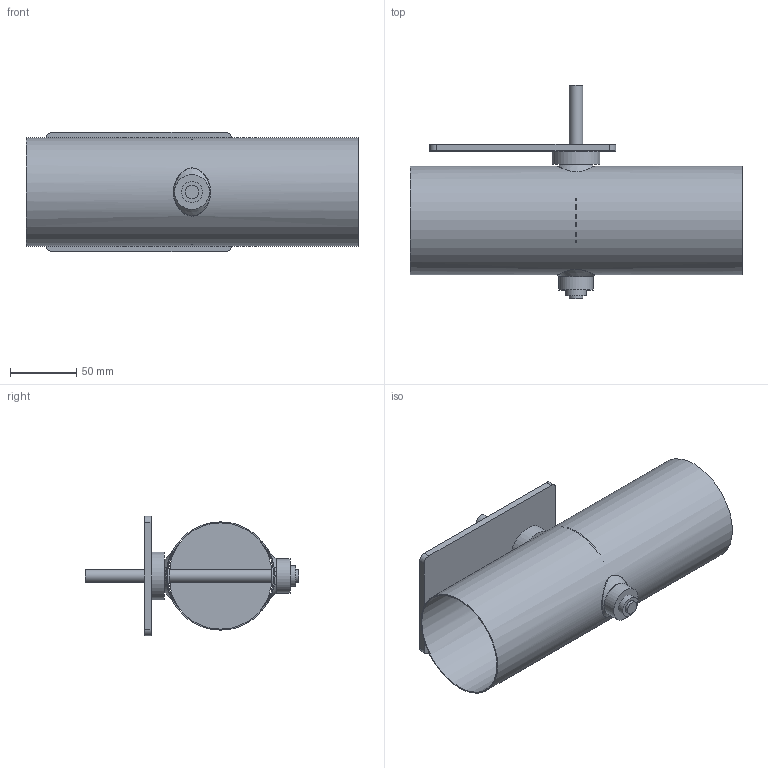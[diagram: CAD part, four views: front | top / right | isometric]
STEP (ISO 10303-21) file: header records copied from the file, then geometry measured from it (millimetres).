
FILE_DESCRIPTION(/* description */ (''),/* implementation_level */ '2;1');
FILE_NAME(/* name */ 'AA118-80B__80_L250_Belimo_Typ_NM.stp',/* time_stamp */ '2017-12-05T13:08:18+01:00',/* author */ (''),/* organization */ (''),/* preprocessor_version */ 'ST-DEVELOPER v11',/* originating_system */ 'SIEMENS UGS NX 6.0',/* authorisation */ '');
FILE_SCHEMA (('CONFIG_CONTROL_DESIGN'));
Length unit declared in the file: millimetre
Products named in the file (1): gars1E3Bhifo
Bounding box: 250 x 161 x 90 mm (x, y, z)
Volume: 147985 mm3; surface area: 179514.2 mm2
Topology: 8 solids, 8 shells, 64 faces, 136 edges, 94 vertices
Faces by surface type: plane 28, cylinder 24, cone 4, bspline 4, torus 4
Full cylindrical faces by diameter (mm): 4.1 x2, 10 x3, 15 x3, 15.85 x2, 16 x2, 24 x2, 26 x1, 36 x1, 80 x1, 81.6 x1
Entity records: 2256 total; most frequent: CARTESIAN_POINT 961, DIRECTION 258, ORIENTED_EDGE 176, EDGE_LOOP 120, AXIS2_PLACEMENT_3D 117, FACE_BOUND 106, EDGE_CURVE 88, VERTEX_POINT 76
